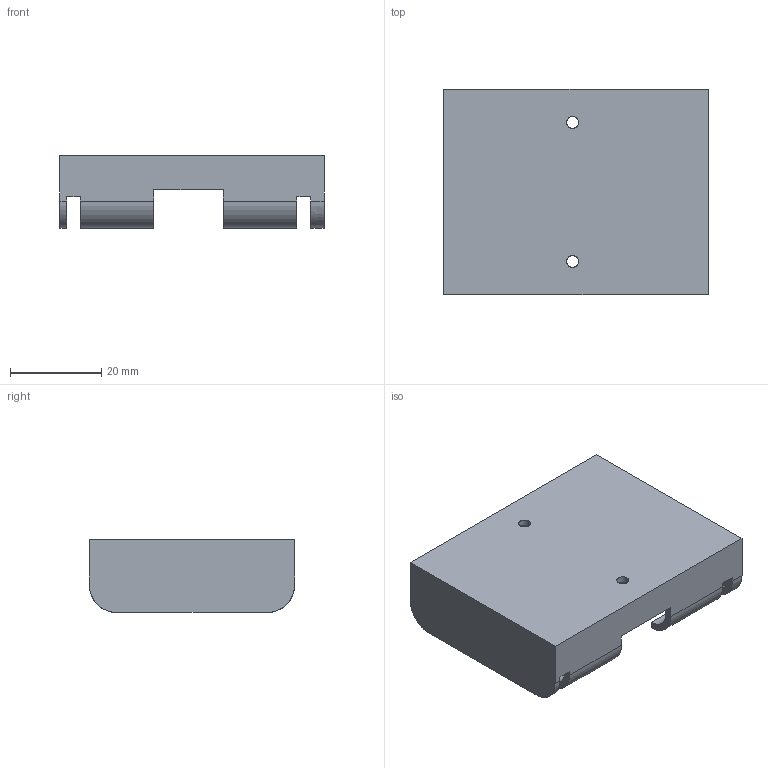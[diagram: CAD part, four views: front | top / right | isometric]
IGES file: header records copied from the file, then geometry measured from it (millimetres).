
Start section: SolidWorks IGES file using analytic representation for surfaces
Global section: file name: C:\Users\AndreBernot\Downloads\K-RACER-L_3D_SW\K-RACER-L_3D_SW\COUPLEUR 3PILES LR6  corps.IGS; native system: SolidWorks 2015; preprocessor: SolidWorks 2015; author: AndreBernot; date: 170922.151148; units: millimetre
Bounding box: 58 x 45 x 16 mm (x, y, z)
Surface area: 11037.9 mm2 (no closed solid volume)
Topology: 0 solids, 0 shells, 62 faces, 816 edges, 816 vertices
Faces by surface type: bspline 38, revolution 24
